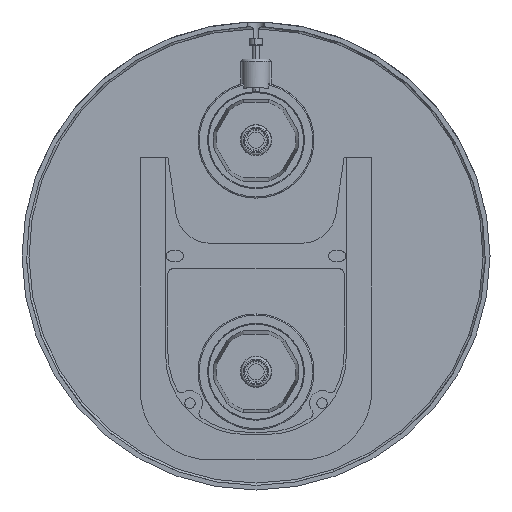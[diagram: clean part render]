
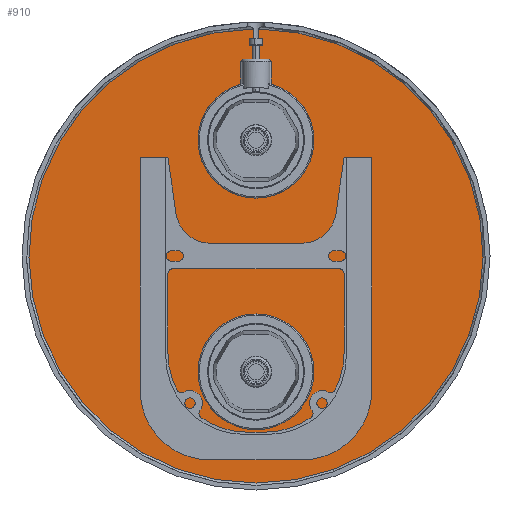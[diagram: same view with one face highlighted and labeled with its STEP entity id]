
A CAD part, front view. The second image highlights one B-rep face of the part: STEP entity #910.
In plain terms, the highlighted planar face has unit normal (0, -1, 0).
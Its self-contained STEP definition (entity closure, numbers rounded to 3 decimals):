
#1=CARTESIAN_POINT('',(0.,-2.,-50.));
#2=DIRECTION('',(0.,-1.,0.));
#3=DIRECTION('',(0.,0.,1.));
#4=AXIS2_PLACEMENT_3D('',#1,#2,#3);
#6=CARTESIAN_POINT('',(0.,-2.,-50.));
#7=DIRECTION('',(0.,-1.,0.));
#8=DIRECTION('',(0.,0.,-1.));
#9=AXIS2_PLACEMENT_3D('',#6,#7,#8);
#11=DIRECTION('',(0.,0.,1.));
#12=VECTOR('',#11,12.993);
#13=CARTESIAN_POINT('',(-1.166,-2.,85.));
#14=LINE('',#13,#12);
#15=DIRECTION('',(0.,0.,-1.));
#16=VECTOR('',#15,9.86);
#17=CARTESIAN_POINT('',(-6.5,-2.,84.));
#18=LINE('',#17,#16);
#19=DIRECTION('',(0.,0.,1.));
#20=VECTOR('',#19,9.86);
#21=CARTESIAN_POINT('',(6.5,-2.,74.14));
#22=LINE('',#21,#20);
#23=DIRECTION('',(0.,0.,1.));
#24=VECTOR('',#23,12.993);
#25=CARTESIAN_POINT('',(1.166,-2.,85.));
#26=LINE('',#25,#24);
#253=DIRECTION('',(1.,0.,0.));
#254=VECTOR('',#253,3.92);
#255=CARTESIAN_POINT('',(-5.086,-2.,85.));
#256=LINE('',#255,#254);
#262=DIRECTION('',(1.,0.,0.));
#263=VECTOR('',#262,3.92);
#264=CARTESIAN_POINT('',(1.166,-2.,85.));
#265=LINE('',#264,#263);
#360=CARTESIAN_POINT('',(6.5,-2.,74.14));
#368=CARTESIAN_POINT('',(0.,-2.,50.));
#369=DIRECTION('',(0.,1.,0.));
#370=DIRECTION('',(0.26,0.,0.966));
#371=AXIS2_PLACEMENT_3D('',#368,#369,#370);
#379=CARTESIAN_POINT('',(-6.5,-2.,74.14));
#498=CARTESIAN_POINT('',(5.086,-2.,85.));
#499=CARTESIAN_POINT('',(5.215,-2.,85.));
#500=CARTESIAN_POINT('',(5.468,-2.,84.958));
#501=CARTESIAN_POINT('',(5.855,-2.,84.756));
#502=CARTESIAN_POINT('',(6.197,-2.,84.425));
#503=CARTESIAN_POINT('',(6.396,-2.,84.147));
#504=CARTESIAN_POINT('',(6.5,-2.,84.));
#553=CARTESIAN_POINT('',(-6.5,-2.,84.));
#554=CARTESIAN_POINT('',(-6.396,-2.,84.147));
#555=CARTESIAN_POINT('',(-6.197,-2.,84.426));
#556=CARTESIAN_POINT('',(-5.855,-2.,84.757));
#557=CARTESIAN_POINT('',(-5.468,-2.,84.958));
#558=CARTESIAN_POINT('',(-5.214,-2.,85.));
#559=CARTESIAN_POINT('',(-5.086,-2.,85.));
#592=CARTESIAN_POINT('',(0.,-2.,0.));
#593=DIRECTION('',(0.,-1.,0.));
#594=DIRECTION('',(-0.012,0.,1.));
#595=AXIS2_PLACEMENT_3D('',#592,#593,#594);
#726=CARTESIAN_POINT('',(0.,-2.,-25.));
#727=CARTESIAN_POINT('',(0.,-2.,-75.));
#728=VERTEX_POINT('',#726);
#729=VERTEX_POINT('',#727);
#798=CARTESIAN_POINT('',(1.166,-2.,85.));
#799=CARTESIAN_POINT('',(-1.166,-2.,85.));
#800=VERTEX_POINT('',#798);
#801=VERTEX_POINT('',#799);
#841=CARTESIAN_POINT('',(1.166,-2.,97.993));
#842=VERTEX_POINT('',#841);
#843=CARTESIAN_POINT('',(-1.166,-2.,97.993));
#844=VERTEX_POINT('',#843);
#859=VERTEX_POINT('',#360);
#862=VERTEX_POINT('',#379);
#863=CARTESIAN_POINT('',(-5.086,-2.,85.));
#864=VERTEX_POINT('',#863);
#865=CARTESIAN_POINT('',(-6.5,-2.,84.));
#866=VERTEX_POINT('',#865);
#867=CARTESIAN_POINT('',(6.5,-2.,84.));
#869=VERTEX_POINT('',#867);
#871=CARTESIAN_POINT('',(5.086,-2.,85.));
#873=VERTEX_POINT('',#871);
#877=CARTESIAN_POINT('',(0.,-2.,0.));
#878=DIRECTION('',(0.,-1.,0.));
#879=DIRECTION('',(-1.,0.,0.));
#880=AXIS2_PLACEMENT_3D('',#877,#878,#879);
#881=PLANE('',#880);
#883=ORIENTED_EDGE('',*,*,#882,.F.);
#885=ORIENTED_EDGE('',*,*,#884,.F.);
#887=ORIENTED_EDGE('',*,*,#886,.F.);
#889=ORIENTED_EDGE('',*,*,#888,.F.);
#891=ORIENTED_EDGE('',*,*,#890,.T.);
#893=ORIENTED_EDGE('',*,*,#892,.F.);
#895=ORIENTED_EDGE('',*,*,#894,.T.);
#897=ORIENTED_EDGE('',*,*,#896,.F.);
#899=ORIENTED_EDGE('',*,*,#898,.F.);
#901=ORIENTED_EDGE('',*,*,#900,.T.);
#902=EDGE_LOOP('',(#883,#885,#887,#889,#891,#893,#895,#897,#899,#901));
#903=FACE_OUTER_BOUND('',#902,.F.);
#905=ORIENTED_EDGE('',*,*,#904,.T.);
#907=ORIENTED_EDGE('',*,*,#906,.T.);
#908=EDGE_LOOP('',(#905,#907));
#909=FACE_BOUND('',#908,.F.);
#910=ADVANCED_FACE('',(#903,#909),#881,.T.);
#5=CIRCLE('',#4,25.);
#10=CIRCLE('',#9,25.);
#372=CIRCLE('',#371,25.);
#505=B_SPLINE_CURVE_WITH_KNOTS('',3,(#498,#499,#500,#501,#502,#503,#504),
.UNSPECIFIED.,.F.,.F.,(4,1,1,1,4),(0.,0.25,0.5,0.75,1.),
.UNSPECIFIED.);
#560=B_SPLINE_CURVE_WITH_KNOTS('',3,(#553,#554,#555,#556,#557,#558,#559),
.UNSPECIFIED.,.F.,.F.,(4,1,1,1,4),(0.,0.25,0.5,0.75,1.),
.UNSPECIFIED.);
#596=CIRCLE('',#595,98.);
#882=EDGE_CURVE('',#844,#842,#596,.T.);
#884=EDGE_CURVE('',#801,#844,#14,.T.);
#886=EDGE_CURVE('',#864,#801,#256,.T.);
#888=EDGE_CURVE('',#866,#864,#560,.T.);
#890=EDGE_CURVE('',#866,#862,#18,.T.);
#892=EDGE_CURVE('',#859,#862,#372,.T.);
#894=EDGE_CURVE('',#859,#869,#22,.T.);
#896=EDGE_CURVE('',#873,#869,#505,.T.);
#898=EDGE_CURVE('',#800,#873,#265,.T.);
#900=EDGE_CURVE('',#800,#842,#26,.T.);
#904=EDGE_CURVE('',#728,#729,#5,.T.);
#906=EDGE_CURVE('',#729,#728,#10,.T.);
